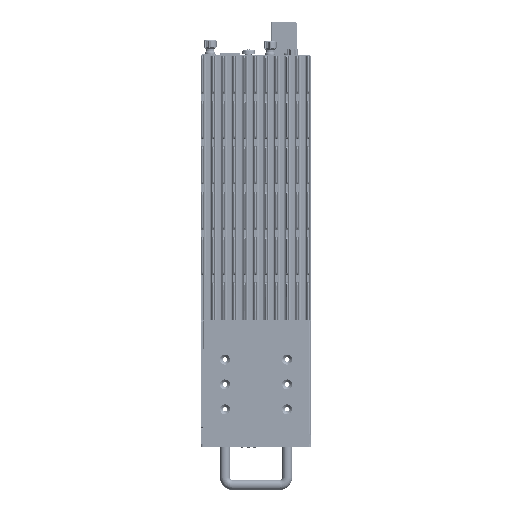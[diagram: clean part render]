
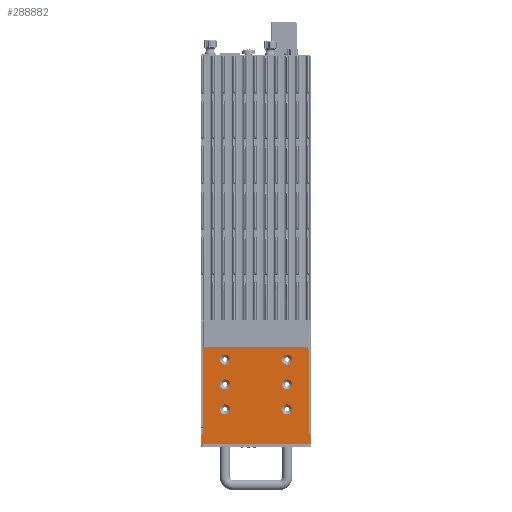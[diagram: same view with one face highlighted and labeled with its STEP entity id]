
A CAD part, left-side view. The second image highlights one B-rep face of the part: STEP entity #288882.
In plain terms, the highlighted planar face has unit normal (-1, 0, 0).
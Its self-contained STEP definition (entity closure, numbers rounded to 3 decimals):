
#287525=DIRECTION('',(0.,1.,0.));
#287526=VECTOR('',#287525,89.);
#287527=CARTESIAN_POINT('',(-222.,-0.5,-313.));
#287528=LINE('',#287527,#287526);
#287792=CARTESIAN_POINT('',(-222.,86.5,-307.));
#287793=DIRECTION('',(-1.,0.,0.));
#287794=DIRECTION('',(0.,0.,1.));
#287795=AXIS2_PLACEMENT_3D('',#287792,#287793,#287794);
#287797=DIRECTION('',(0.,0.,-1.));
#287798=VECTOR('',#287797,68.);
#287799=CARTESIAN_POINT('',(-222.,86.5,-237.));
#287800=LINE('',#287799,#287798);
#287801=CARTESIAN_POINT('',(-222.,84.5,-237.));
#287802=DIRECTION('',(-1.,0.,0.));
#287803=DIRECTION('',(0.,0.,1.));
#287804=AXIS2_PLACEMENT_3D('',#287801,#287802,#287803);
#287806=DIRECTION('',(0.,1.,0.));
#287807=VECTOR('',#287806,81.);
#287808=CARTESIAN_POINT('',(-222.,3.5,-235.));
#287809=LINE('',#287808,#287807);
#287810=CARTESIAN_POINT('',(-222.,3.5,-237.));
#287811=DIRECTION('',(-1.,0.,0.));
#287812=DIRECTION('',(0.,-1.,0.));
#287813=AXIS2_PLACEMENT_3D('',#287810,#287811,#287812);
#287815=DIRECTION('',(0.,0.,1.));
#287816=VECTOR('',#287815,68.);
#287817=CARTESIAN_POINT('',(-222.,1.5,-305.));
#287818=LINE('',#287817,#287816);
#287819=CARTESIAN_POINT('',(-222.,1.5,-307.));
#287820=DIRECTION('',(-1.,0.,0.));
#287821=DIRECTION('',(0.,-1.,0.));
#287822=AXIS2_PLACEMENT_3D('',#287819,#287820,#287821);
#287824=DIRECTION('',(0.,0.,1.));
#287825=VECTOR('',#287824,6.);
#287826=CARTESIAN_POINT('',(-222.,-0.5,-313.));
#287827=LINE('',#287826,#287825);
#287828=CARTESIAN_POINT('',(-222.,69.,-285.));
#287829=DIRECTION('',(1.,0.,0.));
#287830=DIRECTION('',(0.,0.,1.));
#287831=AXIS2_PLACEMENT_3D('',#287828,#287829,#287830);
#287833=CARTESIAN_POINT('',(-222.,69.,-285.));
#287834=DIRECTION('',(1.,0.,0.));
#287835=DIRECTION('',(0.,0.,-1.));
#287836=AXIS2_PLACEMENT_3D('',#287833,#287834,#287835);
#287838=CARTESIAN_POINT('',(-222.,69.,-265.));
#287839=DIRECTION('',(1.,0.,0.));
#287840=DIRECTION('',(0.,0.,1.));
#287841=AXIS2_PLACEMENT_3D('',#287838,#287839,#287840);
#287843=CARTESIAN_POINT('',(-222.,69.,-265.));
#287844=DIRECTION('',(1.,0.,0.));
#287845=DIRECTION('',(0.,0.,-1.));
#287846=AXIS2_PLACEMENT_3D('',#287843,#287844,#287845);
#287848=CARTESIAN_POINT('',(-222.,69.,-245.));
#287849=DIRECTION('',(1.,0.,0.));
#287850=DIRECTION('',(0.,0.,1.));
#287851=AXIS2_PLACEMENT_3D('',#287848,#287849,#287850);
#287853=CARTESIAN_POINT('',(-222.,69.,-245.));
#287854=DIRECTION('',(1.,0.,0.));
#287855=DIRECTION('',(0.,0.,-1.));
#287856=AXIS2_PLACEMENT_3D('',#287853,#287854,#287855);
#287858=CARTESIAN_POINT('',(-222.,19.,-285.));
#287859=DIRECTION('',(1.,0.,0.));
#287860=DIRECTION('',(0.,0.,1.));
#287861=AXIS2_PLACEMENT_3D('',#287858,#287859,#287860);
#287863=CARTESIAN_POINT('',(-222.,19.,-285.));
#287864=DIRECTION('',(1.,0.,0.));
#287865=DIRECTION('',(0.,0.,-1.));
#287866=AXIS2_PLACEMENT_3D('',#287863,#287864,#287865);
#287868=CARTESIAN_POINT('',(-222.,19.,-265.));
#287869=DIRECTION('',(1.,0.,0.));
#287870=DIRECTION('',(0.,0.,1.));
#287871=AXIS2_PLACEMENT_3D('',#287868,#287869,#287870);
#287873=CARTESIAN_POINT('',(-222.,19.,-265.));
#287874=DIRECTION('',(1.,0.,0.));
#287875=DIRECTION('',(0.,0.,-1.));
#287876=AXIS2_PLACEMENT_3D('',#287873,#287874,#287875);
#287878=CARTESIAN_POINT('',(-222.,19.,-245.));
#287879=DIRECTION('',(1.,0.,0.));
#287880=DIRECTION('',(0.,0.,1.));
#287881=AXIS2_PLACEMENT_3D('',#287878,#287879,#287880);
#287883=CARTESIAN_POINT('',(-222.,19.,-245.));
#287884=DIRECTION('',(1.,0.,0.));
#287885=DIRECTION('',(0.,0.,-1.));
#287886=AXIS2_PLACEMENT_3D('',#287883,#287884,#287885);
#287888=DIRECTION('',(0.,0.,1.));
#287889=VECTOR('',#287888,6.);
#287890=CARTESIAN_POINT('',(-222.,88.5,-313.));
#287891=LINE('',#287890,#287889);
#288165=CARTESIAN_POINT('',(-222.,88.5,-313.));
#288166=VERTEX_POINT('',#288165);
#288181=CARTESIAN_POINT('',(-222.,-0.5,-313.));
#288182=VERTEX_POINT('',#288181);
#288205=CARTESIAN_POINT('',(-222.,-0.5,-307.));
#288206=VERTEX_POINT('',#288205);
#288207=CARTESIAN_POINT('',(-222.,88.5,-307.));
#288208=VERTEX_POINT('',#288207);
#288219=CARTESIAN_POINT('',(-222.,1.5,-305.));
#288220=VERTEX_POINT('',#288219);
#288221=CARTESIAN_POINT('',(-222.,86.5,-305.));
#288222=VERTEX_POINT('',#288221);
#288233=CARTESIAN_POINT('',(-222.,1.5,-237.));
#288234=VERTEX_POINT('',#288233);
#288237=CARTESIAN_POINT('',(-222.,86.5,-237.));
#288238=VERTEX_POINT('',#288237);
#288241=CARTESIAN_POINT('',(-222.,69.,-281.));
#288242=CARTESIAN_POINT('',(-222.,69.,-289.));
#288243=VERTEX_POINT('',#288241);
#288244=VERTEX_POINT('',#288242);
#288249=CARTESIAN_POINT('',(-222.,3.5,-235.));
#288250=VERTEX_POINT('',#288249);
#288253=CARTESIAN_POINT('',(-222.,84.5,-235.));
#288254=VERTEX_POINT('',#288253);
#288257=CARTESIAN_POINT('',(-222.,69.,-261.));
#288258=CARTESIAN_POINT('',(-222.,69.,-269.));
#288259=VERTEX_POINT('',#288257);
#288260=VERTEX_POINT('',#288258);
#288265=CARTESIAN_POINT('',(-222.,69.,-241.));
#288266=CARTESIAN_POINT('',(-222.,69.,-249.));
#288267=VERTEX_POINT('',#288265);
#288268=VERTEX_POINT('',#288266);
#288277=CARTESIAN_POINT('',(-222.,19.,-281.));
#288278=CARTESIAN_POINT('',(-222.,19.,-289.));
#288279=VERTEX_POINT('',#288277);
#288280=VERTEX_POINT('',#288278);
#288285=CARTESIAN_POINT('',(-222.,19.,-261.));
#288286=CARTESIAN_POINT('',(-222.,19.,-269.));
#288287=VERTEX_POINT('',#288285);
#288288=VERTEX_POINT('',#288286);
#288293=CARTESIAN_POINT('',(-222.,19.,-241.));
#288294=CARTESIAN_POINT('',(-222.,19.,-249.));
#288295=VERTEX_POINT('',#288293);
#288296=VERTEX_POINT('',#288294);
#288828=CARTESIAN_POINT('',(-222.,-0.5,-235.));
#288829=DIRECTION('',(1.,0.,0.));
#288830=DIRECTION('',(0.,0.,1.));
#288831=AXIS2_PLACEMENT_3D('',#288828,#288829,#288830);
#288832=PLANE('',#288831);
#288833=ORIENTED_EDGE('',*,*,#288685,.F.);
#288834=ORIENTED_EDGE('',*,*,#288700,.F.);
#288835=ORIENTED_EDGE('',*,*,#288714,.F.);
#288836=ORIENTED_EDGE('',*,*,#288728,.F.);
#288837=ORIENTED_EDGE('',*,*,#288742,.F.);
#288838=ORIENTED_EDGE('',*,*,#288758,.F.);
#288839=ORIENTED_EDGE('',*,*,#288770,.F.);
#288840=ORIENTED_EDGE('',*,*,#288786,.F.);
#288841=ORIENTED_EDGE('',*,*,#288525,.T.);
#288843=ORIENTED_EDGE('',*,*,#288842,.T.);
#288844=EDGE_LOOP('',(#288833,#288834,#288835,#288836,#288837,#288838,#288839,
#288840,#288841,#288843));
#288845=FACE_OUTER_BOUND('',#288844,.F.);
#288847=ORIENTED_EDGE('',*,*,#288846,.F.);
#288849=ORIENTED_EDGE('',*,*,#288848,.F.);
#288850=EDGE_LOOP('',(#288847,#288849));
#288851=FACE_BOUND('',#288850,.F.);
#288853=ORIENTED_EDGE('',*,*,#288852,.F.);
#288855=ORIENTED_EDGE('',*,*,#288854,.F.);
#288856=EDGE_LOOP('',(#288853,#288855));
#288857=FACE_BOUND('',#288856,.F.);
#288859=ORIENTED_EDGE('',*,*,#288858,.F.);
#288861=ORIENTED_EDGE('',*,*,#288860,.F.);
#288862=EDGE_LOOP('',(#288859,#288861));
#288863=FACE_BOUND('',#288862,.F.);
#288865=ORIENTED_EDGE('',*,*,#288864,.F.);
#288867=ORIENTED_EDGE('',*,*,#288866,.F.);
#288868=EDGE_LOOP('',(#288865,#288867));
#288869=FACE_BOUND('',#288868,.F.);
#288871=ORIENTED_EDGE('',*,*,#288870,.F.);
#288873=ORIENTED_EDGE('',*,*,#288872,.F.);
#288874=EDGE_LOOP('',(#288871,#288873));
#288875=FACE_BOUND('',#288874,.F.);
#288877=ORIENTED_EDGE('',*,*,#288876,.F.);
#288879=ORIENTED_EDGE('',*,*,#288878,.F.);
#288880=EDGE_LOOP('',(#288877,#288879));
#288881=FACE_BOUND('',#288880,.F.);
#288882=ADVANCED_FACE('',(#288845,#288851,#288857,#288863,#288869,#288875,
#288881),#288832,.F.);
#287796=CIRCLE('',#287795,2.);
#287805=CIRCLE('',#287804,2.);
#287814=CIRCLE('',#287813,2.);
#287823=CIRCLE('',#287822,2.);
#287832=CIRCLE('',#287831,4.);
#287837=CIRCLE('',#287836,4.);
#287842=CIRCLE('',#287841,4.);
#287847=CIRCLE('',#287846,4.);
#287852=CIRCLE('',#287851,4.);
#287857=CIRCLE('',#287856,4.);
#287862=CIRCLE('',#287861,4.);
#287867=CIRCLE('',#287866,4.);
#287872=CIRCLE('',#287871,4.);
#287877=CIRCLE('',#287876,4.);
#287882=CIRCLE('',#287881,4.);
#287887=CIRCLE('',#287886,4.);
#288525=EDGE_CURVE('',#288182,#288166,#287528,.T.);
#288685=EDGE_CURVE('',#288222,#288208,#287796,.T.);
#288700=EDGE_CURVE('',#288238,#288222,#287800,.T.);
#288714=EDGE_CURVE('',#288254,#288238,#287805,.T.);
#288728=EDGE_CURVE('',#288250,#288254,#287809,.T.);
#288742=EDGE_CURVE('',#288234,#288250,#287814,.T.);
#288758=EDGE_CURVE('',#288220,#288234,#287818,.T.);
#288770=EDGE_CURVE('',#288206,#288220,#287823,.T.);
#288786=EDGE_CURVE('',#288182,#288206,#287827,.T.);
#288842=EDGE_CURVE('',#288166,#288208,#287891,.T.);
#288846=EDGE_CURVE('',#288243,#288244,#287832,.T.);
#288848=EDGE_CURVE('',#288244,#288243,#287837,.T.);
#288852=EDGE_CURVE('',#288259,#288260,#287842,.T.);
#288854=EDGE_CURVE('',#288260,#288259,#287847,.T.);
#288858=EDGE_CURVE('',#288267,#288268,#287852,.T.);
#288860=EDGE_CURVE('',#288268,#288267,#287857,.T.);
#288864=EDGE_CURVE('',#288279,#288280,#287862,.T.);
#288866=EDGE_CURVE('',#288280,#288279,#287867,.T.);
#288870=EDGE_CURVE('',#288287,#288288,#287872,.T.);
#288872=EDGE_CURVE('',#288288,#288287,#287877,.T.);
#288876=EDGE_CURVE('',#288295,#288296,#287882,.T.);
#288878=EDGE_CURVE('',#288296,#288295,#287887,.T.);
